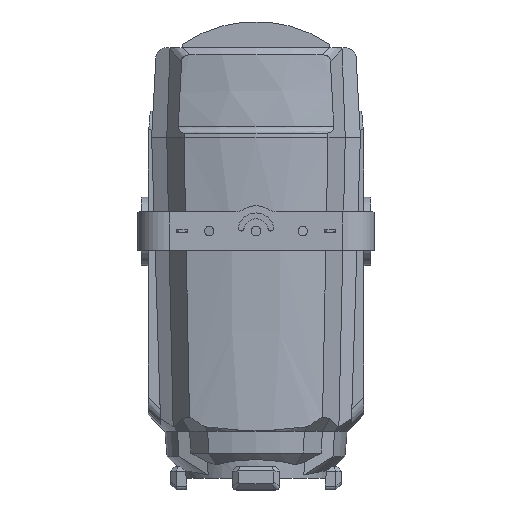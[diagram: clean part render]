
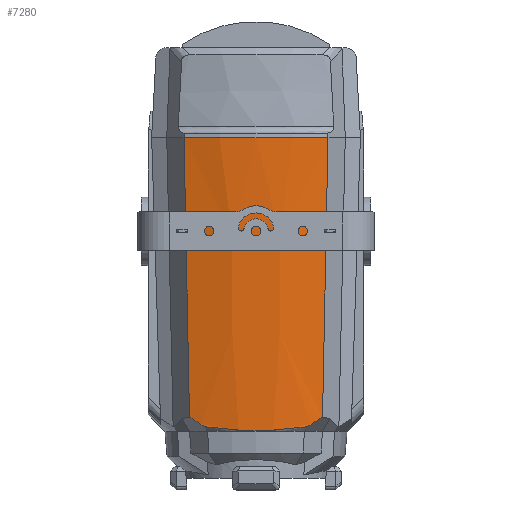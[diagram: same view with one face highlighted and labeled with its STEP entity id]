
A CAD part, top view. The second image highlights one B-rep face of the part: STEP entity #7280.
In plain terms, the highlighted conical face has half-angle 1.8 degrees and reference radius 340 mm.
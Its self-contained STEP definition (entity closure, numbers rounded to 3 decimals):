
#1837=CIRCLE('',#7775,340.);
#1990=ELLIPSE('',#7774,451.927,319.403);
#1991=ELLIPSE('',#7776,451.927,319.403);
#2238=ORIENTED_EDGE('',*,*,#4452,.F.);
#2239=ORIENTED_EDGE('',*,*,#4451,.T.);
#2240=ORIENTED_EDGE('',*,*,#4453,.T.);
#2241=ORIENTED_EDGE('',*,*,#4454,.F.);
#2242=ORIENTED_EDGE('',*,*,#4455,.F.);
#2243=ORIENTED_EDGE('',*,*,#4456,.F.);
#4451=EDGE_CURVE('',#5547,#5551,#6227,.T.);
#4452=EDGE_CURVE('',#5547,#5552,#1990,.F.);
#4453=EDGE_CURVE('',#5551,#5553,#1837,.T.);
#4454=EDGE_CURVE('',#5554,#5553,#6228,.T.);
#4455=EDGE_CURVE('',#5555,#5554,#1991,.F.);
#4456=EDGE_CURVE('',#5552,#5555,#6229,.T.);
#5547=VERTEX_POINT('',#10869);
#5551=VERTEX_POINT('',#10880);
#5552=VERTEX_POINT('',#10887);
#5553=VERTEX_POINT('',#10889);
#5554=VERTEX_POINT('',#10894);
#5555=VERTEX_POINT('',#10896);
#6227=B_SPLINE_CURVE_WITH_KNOTS('',3,(#10881,#10882,#10883,#10884),
 .UNSPECIFIED.,.F.,.F.,(4,4),(0.02,0.408),
 .UNSPECIFIED.);
#6228=B_SPLINE_CURVE_WITH_KNOTS('',3,(#10890,#10891,#10892,#10893),
 .UNSPECIFIED.,.F.,.F.,(4,4),(0.02,0.408),
 .UNSPECIFIED.);
#6229=B_SPLINE_CURVE_WITH_KNOTS('',3,(#10897,#10898,#10899,#10900,#10901,
#10902,#10903,#10904,#10905,#10906,#10907),.UNSPECIFIED.,.F.,.F.,(4,1,1,
1,1,1,1,1,4),(0.023,0.058,0.076,
0.094,0.103,0.112,0.13,
0.148,0.166),.UNSPECIFIED.);
#6338=EDGE_LOOP('',(#2238,#2239,#2240,#2241,#2242,#2243));
#6798=FACE_BOUND('',#6338,.T.);
#7246=CONICAL_SURFACE('',#7773,340.,0.031);
#7280=ADVANCED_FACE('',(#6798),#7246,.T.);
#7773=AXIS2_PLACEMENT_3D('',#10885,#8555,#8556);
#7774=AXIS2_PLACEMENT_3D('',#10886,#8557,#8558);
#7775=AXIS2_PLACEMENT_3D('',#10888,#8559,#8560);
#7776=AXIS2_PLACEMENT_3D('',#10895,#8561,#8562);
#8555=DIRECTION('',(0.,1.,0.));
#8556=DIRECTION('',(0.,0.,1.));
#8557=DIRECTION('',(-0.544,0.707,-0.452));
#8558=DIRECTION('',(0.544,0.707,0.452));
#8559=DIRECTION('',(0.,-1.,0.));
#8560=DIRECTION('',(-1.,0.,0.));
#8561=DIRECTION('',(0.544,0.707,-0.452));
#8562=DIRECTION('',(-0.544,0.707,0.452));
#10869=CARTESIAN_POINT('',(92.416,-388.286,105.993));
#10880=CARTESIAN_POINT('',(100.,0.,116.454));
#10881=CARTESIAN_POINT('',(92.416,-388.286,105.993));
#10882=CARTESIAN_POINT('',(94.936,-258.857,109.492));
#10883=CARTESIAN_POINT('',(97.464,-129.429,112.978));
#10884=CARTESIAN_POINT('',(100.,0.,116.454));
#10885=CARTESIAN_POINT('',(0.,0.,-208.508));
#10886=CARTESIAN_POINT('',(7.721,-650.396,-202.086));
#10887=CARTESIAN_POINT('',(71.058,-401.46,111.071));
#10888=CARTESIAN_POINT('',(0.,0.,-208.508));
#10889=CARTESIAN_POINT('',(-100.,0.,116.454));
#10890=CARTESIAN_POINT('',(-92.416,-388.286,105.993));
#10891=CARTESIAN_POINT('',(-94.936,-258.857,109.492));
#10892=CARTESIAN_POINT('',(-97.464,-129.429,112.978));
#10893=CARTESIAN_POINT('',(-100.,0.,116.454));
#10894=CARTESIAN_POINT('',(-92.416,-388.286,105.993));
#10895=CARTESIAN_POINT('',(-7.721,-650.396,-202.086));
#10896=CARTESIAN_POINT('',(-71.058,-401.46,111.071));
#10897=CARTESIAN_POINT('',(71.058,-401.46,111.071));
#10898=CARTESIAN_POINT('',(59.475,-403.148,113.592));
#10899=CARTESIAN_POINT('',(41.917,-405.091,116.448));
#10900=CARTESIAN_POINT('',(18.134,-406.418,118.382));
#10901=CARTESIAN_POINT('',(3.103,-406.702,118.794));
#10902=CARTESIAN_POINT('',(-9.007,-406.591,118.632));
#10903=CARTESIAN_POINT('',(-21.024,-406.256,118.145));
#10904=CARTESIAN_POINT('',(-35.925,-405.427,116.937));
#10905=CARTESIAN_POINT('',(-53.605,-403.798,114.546));
#10906=CARTESIAN_POINT('',(-65.262,-402.305,112.333));
#10907=CARTESIAN_POINT('',(-71.058,-401.46,111.071));
